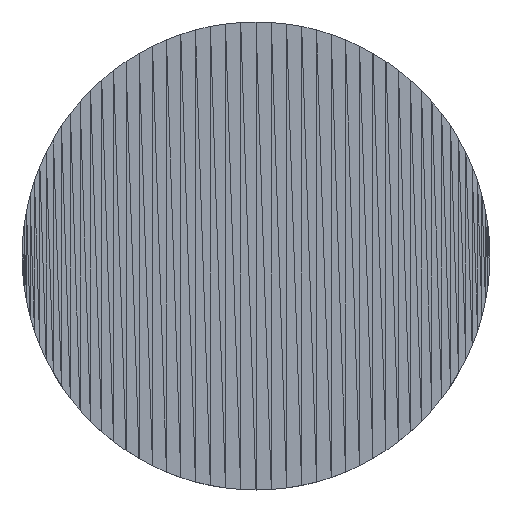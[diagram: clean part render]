
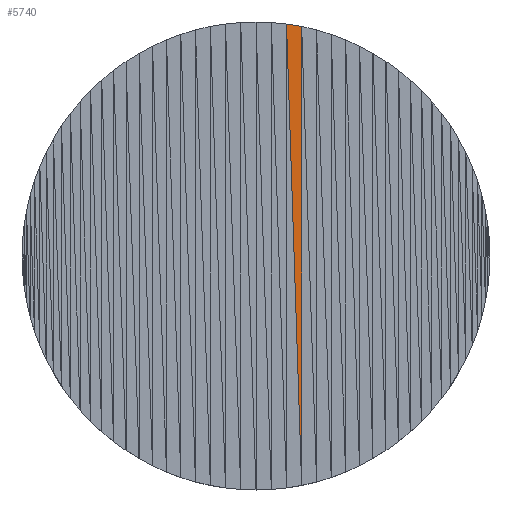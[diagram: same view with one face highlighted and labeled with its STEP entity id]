
A CAD part, top view. The second image highlights one B-rep face of the part: STEP entity #5740.
In plain terms, the highlighted planar face has unit normal (0, 0, 1).
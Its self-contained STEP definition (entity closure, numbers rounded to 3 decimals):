
#85=CARTESIAN_POINT('',(2.307,11.598,2.0));
#86=VERTEX_POINT('',#85);
#89=CARTESIAN_POINT('',(1.543,11.724,2.0));
#90=VERTEX_POINT('',#89);
#301=CARTESIAN_POINT('',(2.307,-11.598,2.0));
#302=VERTEX_POINT('',#301);
#1150=DIRECTION('',(-0.987,0.163,0.0));
#1151=VECTOR('',#1150,0.774);
#1152=LINE('',#85,#1151);
#1153=EDGE_CURVE('',#86,#90,#1152,.T.);
#5713=DIRECTION('',(0.0,-1.0,0.0));
#5714=VECTOR('',#5713,23.196);
#5715=LINE('',#85,#5714);
#5716=EDGE_CURVE('',#86,#302,#5715,.T.);
#5727=DIRECTION('',(0.033,-0.999,0.0));
#5728=VECTOR('',#5727,23.334);
#5729=LINE('',#89,#5728);
#5730=EDGE_CURVE('',#90,#302,#5729,.T.);
#5731=ORIENTED_EDGE('',*,*,#5730,.T.);
#5732=ORIENTED_EDGE('',*,*,#5716,.F.);
#5733=ORIENTED_EDGE('',*,*,#1153,.T.);
#5734=EDGE_LOOP('',(#5731,#5732,#5733));
#5735=FACE_OUTER_BOUND('',#5734,.T.);
#5736=DIRECTION('',(0.0,0.0,1.0));
#5737=DIRECTION('',(0.0,1.0,0.0));
#5738=AXIS2_PLACEMENT_3D('',#89,#5736,#5737);
#5739=PLANE('',#5738);
#5740=ADVANCED_FACE('',(#5735),#5739,.T.);
